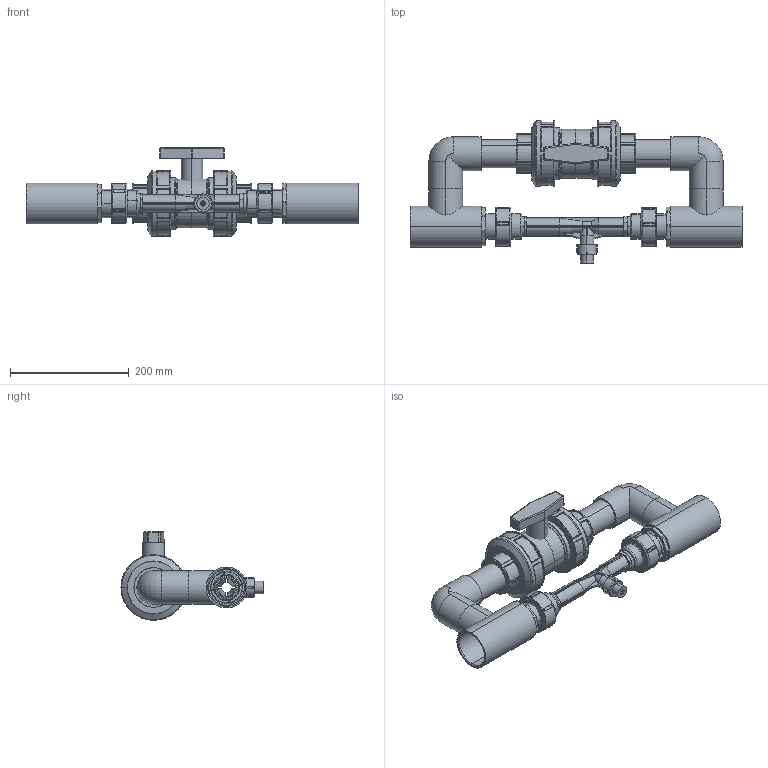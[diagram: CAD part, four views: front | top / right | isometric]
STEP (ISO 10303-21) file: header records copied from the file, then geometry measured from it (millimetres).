
FILE_DESCRIPTION (( 'STEP AP214' ), '1' );
FILE_NAME ('9-0044-01_for IU-306.STEP', '2018-07-31T20:20:47', ( '' ), ( '' ), 'SwSTEP 2.0', 'SolidWorks 2017', '' );
FILE_SCHEMA (( 'AUTOMOTIVE_DESIGN' ));
Length unit declared in the file: inch
Products named in the file (1): 9-0044-01_for IU-306
Bounding box: 560.07 x 239.75 x 149.22 mm (x, y, z)
Surface area: 439751.2 mm2 (no closed solid volume)
Topology: 0 solids, 25 shells, 745 faces, 2106 edges, 1361 vertices
Faces by surface type: cylinder 319, plane 232, torus 160, cone 34
Entity records: 36061 total; most frequent: CARTESIAN_POINT 7341, DIRECTION 4044, ORIENTED_EDGE 3825, EDGE_CURVE 2106, AXIS2_PLACEMENT_3D 1586, VERTEX_POINT 1361, LINE 872, VECTOR 872
